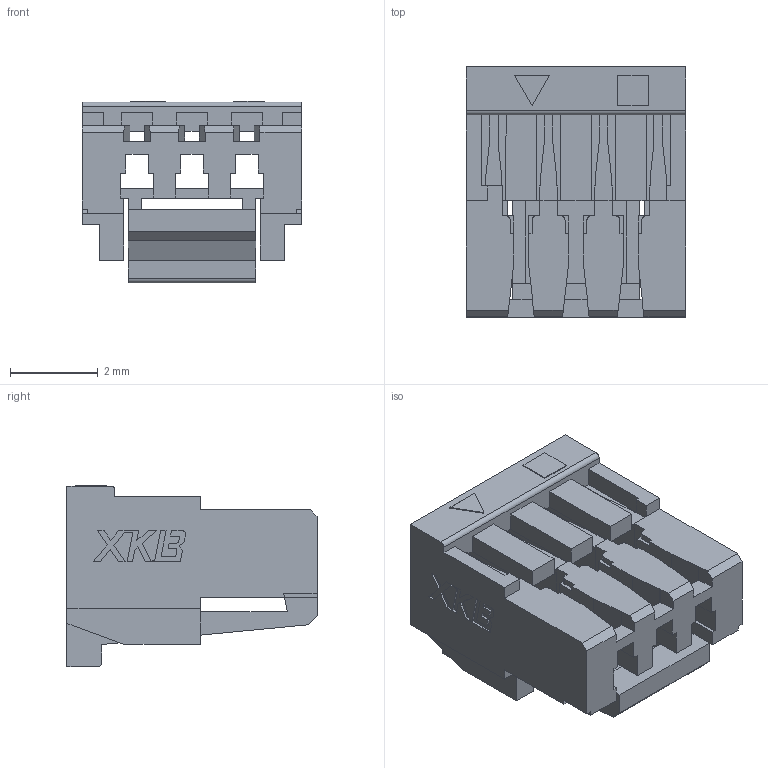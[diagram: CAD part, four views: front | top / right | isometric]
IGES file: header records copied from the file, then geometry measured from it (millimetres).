
Start section: SolidWorks IGES file using analytic representation for surfaces
Global section: file name: C:\Users\Administrator\Desktop\eRob 蟀諉ん\厙桴\GHR-03V-S(CAN).IGS; native system: SolidWorks 2016; preprocessor: SolidWorks 2016; author: Administrator; date: 220221.161019; units: millimetre
Bounding box: 5 x 5.7 x 4.14 mm (x, y, z)
Surface area: 243.9 mm2 (no closed solid volume)
Topology: 0 solids, 0 shells, 298 faces, 1886 edges, 1886 vertices
Faces by surface type: bspline 284, revolution 14
